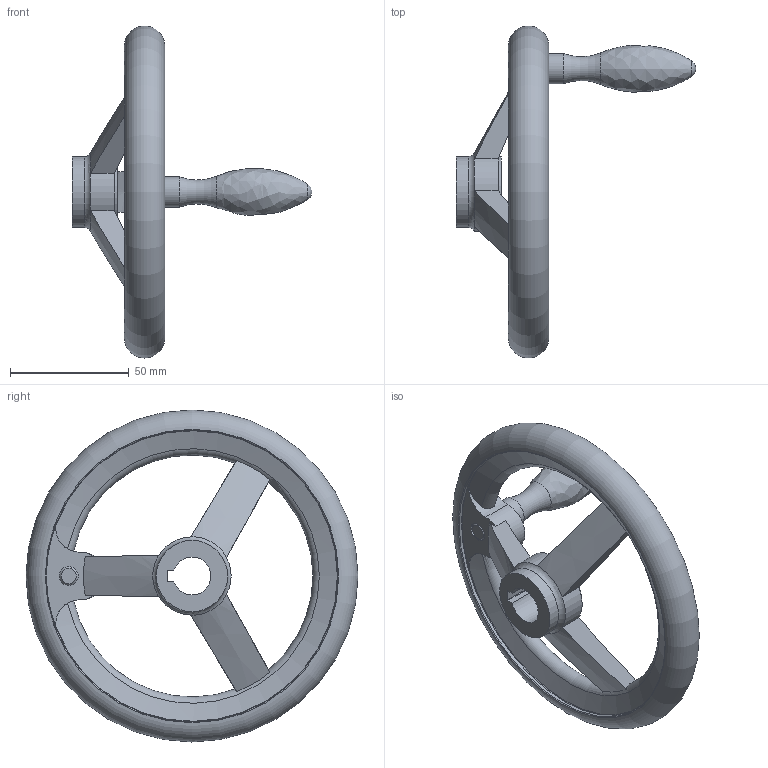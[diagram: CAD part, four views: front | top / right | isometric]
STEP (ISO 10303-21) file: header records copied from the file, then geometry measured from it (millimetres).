
FILE_DESCRIPTION( ( 'STEP AP203' ), '1' );
FILE_NAME( 'C:/Temp/Ganter_Step_05_03_2020/data/1_3/din_950/din_950_k/din_950_k_f/Handwheel DIN 950-GG-140-K16-F.stp', '2020-03-05T10:31:14', ( 'License CC BY-ND 4.0' ), ( 'CADENAS' ), ' ', 'PARTsolutions', ' ' );
FILE_SCHEMA( ( 'CONFIG_CONTROL_DESIGN' ) );
Length unit declared in the file: millimetre
Products named in the file (1): _Handwheel DIN 950-GG-140-K16-F
Bounding box: 101 x 139.99 x 139.99 mm (x, y, z)
Volume: 120805.7 mm3; surface area: 34336 mm2
Topology: 1 solids, 1 shells, 49 faces, 140 edges, 90 vertices
Faces by surface type: cylinder 15, plane 14, torus 11, cone 7, sphere 1, bspline 1
Full cylindrical faces by diameter (mm): 8 x1, 12.8 x1, 30 x2, 123 x2
Entity records: 1869 total; most frequent: CARTESIAN_POINT 682, DIRECTION 228, ORIENTED_EDGE 228, EDGE_CURVE 114, AXIS2_PLACEMENT_3D 102, VERTEX_POINT 84, EDGE_LOOP 72, FACE_OUTER_BOUND 64
